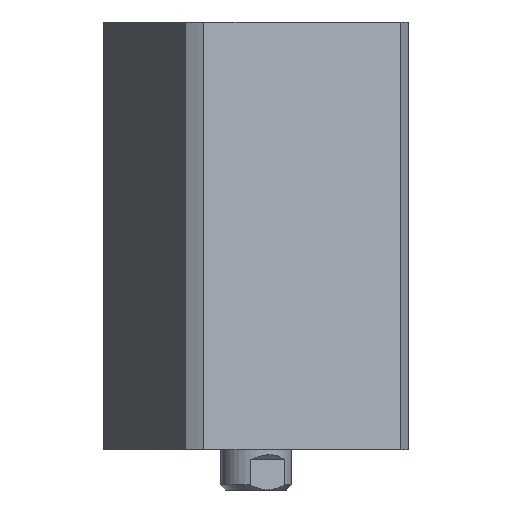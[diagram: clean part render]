
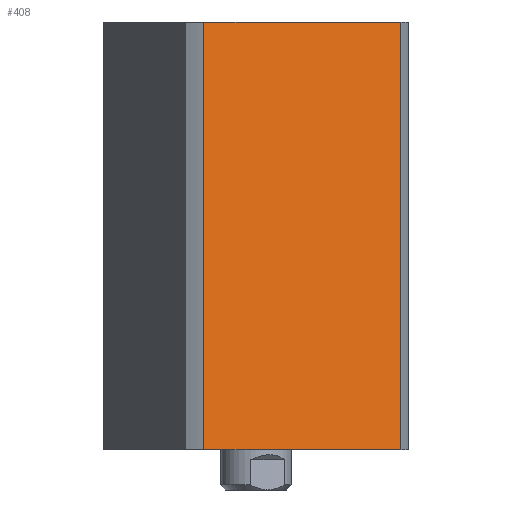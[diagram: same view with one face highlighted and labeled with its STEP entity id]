
A CAD part, left-side view. The second image highlights one B-rep face of the part: STEP entity #408.
In plain terms, the highlighted planar face has unit normal (-0.924, -0.383, 0) as drawn and (1, 0, 0) by its records, which use the part's own axes.
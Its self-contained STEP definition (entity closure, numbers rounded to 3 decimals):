
#28 = VECTOR ( 'NONE', #1281, 1000. ) ;
#123 = ORIENTED_EDGE ( 'NONE', *, *, #5078, .F. ) ;
#137 = VECTOR ( 'NONE', #6037, 1000. ) ;
#188 = EDGE_LOOP ( 'NONE', ( #1197, #7277, #123, #6021 ) ) ;
#408 = ADVANCED_FACE ( 'NONE', ( #1952 ), #6943, .F. ) ;
#469 = DIRECTION ( 'NONE',  ( 0., 0., 1. ) ) ;
#577 = DIRECTION ( 'NONE',  ( 0., -1., 0. ) ) ;
#739 = VECTOR ( 'NONE', #4693, 1000. ) ;
#875 = CARTESIAN_POINT ( 'NONE',  ( 24., -21.166, 0. ) ) ;
#879 = VERTEX_POINT ( 'NONE', #4616 ) ;
#1069 = CARTESIAN_POINT ( 'NONE',  ( 24., 24., 85. ) ) ;
#1122 = LINE ( 'NONE', #2192, #739 ) ;
#1197 = ORIENTED_EDGE ( 'NONE', *, *, #6798, .F. ) ;
#1281 = DIRECTION ( 'NONE',  ( 0., 0., -1. ) ) ;
#1296 = VERTEX_POINT ( 'NONE', #875 ) ;
#1852 = CARTESIAN_POINT ( 'NONE',  ( 24., 21.166, 85. ) ) ;
#1890 = CARTESIAN_POINT ( 'NONE',  ( 24., 24., 85. ) ) ;
#1952 = FACE_OUTER_BOUND ( 'NONE', #188, .T. ) ;
#1999 = VERTEX_POINT ( 'NONE', #3926 ) ;
#2192 = CARTESIAN_POINT ( 'NONE',  ( 24., 24., 0. ) ) ;
#2456 = LINE ( 'NONE', #2956, #5565 ) ;
#2956 = CARTESIAN_POINT ( 'NONE',  ( 24., -21.166, -515. ) ) ;
#3926 = CARTESIAN_POINT ( 'NONE',  ( 24., 21.166, 0. ) ) ;
#4616 = CARTESIAN_POINT ( 'NONE',  ( 24., -21.166, 85. ) ) ;
#4693 = DIRECTION ( 'NONE',  ( 0., 1., 0. ) ) ;
#4813 = EDGE_CURVE ( 'NONE', #1296, #1999, #1122, .T. ) ;
#4828 = DIRECTION ( 'NONE',  ( -1., 0., 0. ) ) ;
#4924 = EDGE_CURVE ( 'NONE', #879, #6121, #6549, .T. ) ;
#4996 = LINE ( 'NONE', #7482, #28 ) ;
#5078 = EDGE_CURVE ( 'NONE', #6121, #1999, #4996, .T. ) ;
#5479 = AXIS2_PLACEMENT_3D ( 'NONE', #1890, #4828, #577 ) ;
#5565 = VECTOR ( 'NONE', #469, 1000. ) ;
#6021 = ORIENTED_EDGE ( 'NONE', *, *, #4924, .F. ) ;
#6037 = DIRECTION ( 'NONE',  ( 0., 1., 0. ) ) ;
#6121 = VERTEX_POINT ( 'NONE', #1852 ) ;
#6549 = LINE ( 'NONE', #1069, #137 ) ;
#6798 = EDGE_CURVE ( 'NONE', #1296, #879, #2456, .T. ) ;
#6943 = PLANE ( 'NONE',  #5479 ) ;
#7277 = ORIENTED_EDGE ( 'NONE', *, *, #4813, .T. ) ;
#7482 = CARTESIAN_POINT ( 'NONE',  ( 24., 21.166, -515. ) ) ;
